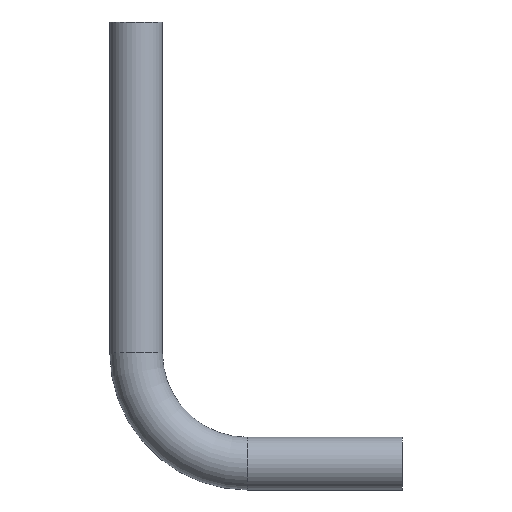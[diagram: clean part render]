
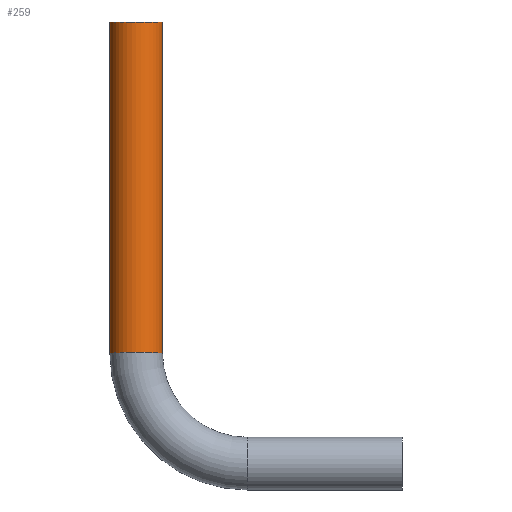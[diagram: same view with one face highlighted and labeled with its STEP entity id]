
A CAD part, top view. The second image highlights one B-rep face of the part: STEP entity #259.
In plain terms, the highlighted cylindrical face has radius 45 mm (diameter 90 mm), a partial arc.
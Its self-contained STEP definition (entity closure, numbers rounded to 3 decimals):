
#3 = FACE_OUTER_BOUND ( 'NONE', #406, .T. ) ;
#10 = CYLINDRICAL_SURFACE ( 'NONE', #215, 45. ) ;
#42 = DIRECTION ( 'NONE',  ( -1., 0., 0. ) ) ;
#61 = DIRECTION ( 'NONE',  ( 0., 1., 0. ) ) ;
#70 = CARTESIAN_POINT ( 'NONE',  ( -405., 190., 0. ) ) ;
#141 = VERTEX_POINT ( 'NONE', #338 ) ;
#146 = VERTEX_POINT ( 'NONE', #344 ) ;
#149 = ORIENTED_EDGE ( 'NONE', *, *, #204, .T. ) ;
#154 = ORIENTED_EDGE ( 'NONE', *, *, #206, .F. ) ;
#163 = VERTEX_POINT ( 'NONE', #342 ) ;
#169 = VERTEX_POINT ( 'NONE', #334 ) ;
#181 = ORIENTED_EDGE ( 'NONE', *, *, #198, .F. ) ;
#192 = ORIENTED_EDGE ( 'NONE', *, *, #199, .F. ) ;
#198 = EDGE_CURVE ( 'NONE', #169, #163, #399, .T. ) ;
#199 = EDGE_CURVE ( 'NONE', #141, #169, #418, .T. ) ;
#204 = EDGE_CURVE ( 'NONE', #146, #163, #397, .T. ) ;
#206 = EDGE_CURVE ( 'NONE', #146, #141, #386, .T. ) ;
#215 = AXIS2_PLACEMENT_3D ( 'NONE', #70, #61, #42 ) ;
#259 = ADVANCED_FACE ( 'NONE', ( #3 ), #10, .T. ) ;
#311 = AXIS2_PLACEMENT_3D ( 'NONE', #361, #368, #360 ) ;
#313 = AXIS2_PLACEMENT_3D ( 'NONE', #359, #337, #352 ) ;
#330 = CARTESIAN_POINT ( 'NONE',  ( -360., 190., 0. ) ) ;
#334 = CARTESIAN_POINT ( 'NONE',  ( -450., 755., 0. ) ) ;
#335 = CARTESIAN_POINT ( 'NONE',  ( -450., 190., 0. ) ) ;
#337 = DIRECTION ( 'NONE',  ( 0., -1., 0. ) ) ;
#338 = CARTESIAN_POINT ( 'NONE',  ( -450., 190., 0. ) ) ;
#342 = CARTESIAN_POINT ( 'NONE',  ( -360., 755., 0. ) ) ;
#344 = CARTESIAN_POINT ( 'NONE',  ( -360., 190., 0. ) ) ;
#352 = DIRECTION ( 'NONE',  ( 0., 0., -1. ) ) ;
#359 = CARTESIAN_POINT ( 'NONE',  ( -405., 190., 0. ) ) ;
#360 = DIRECTION ( 'NONE',  ( -1., 0., 0. ) ) ;
#361 = CARTESIAN_POINT ( 'NONE',  ( -405., 755., 0. ) ) ;
#362 = DIRECTION ( 'NONE',  ( 0., 1., 0. ) ) ;
#368 = DIRECTION ( 'NONE',  ( 0., 1., 0. ) ) ;
#372 = DIRECTION ( 'NONE',  ( 0., 1., 0. ) ) ;
#380 = VECTOR ( 'NONE', #362, 1000. ) ;
#386 = CIRCLE ( 'NONE', #313, 45. ) ;
#397 = LINE ( 'NONE', #330, #380 ) ;
#399 = CIRCLE ( 'NONE', #311, 45. ) ;
#405 = VECTOR ( 'NONE', #372, 1000. ) ;
#406 = EDGE_LOOP ( 'NONE', ( #154, #149, #181, #192 ) ) ;
#418 = LINE ( 'NONE', #335, #405 ) ;
